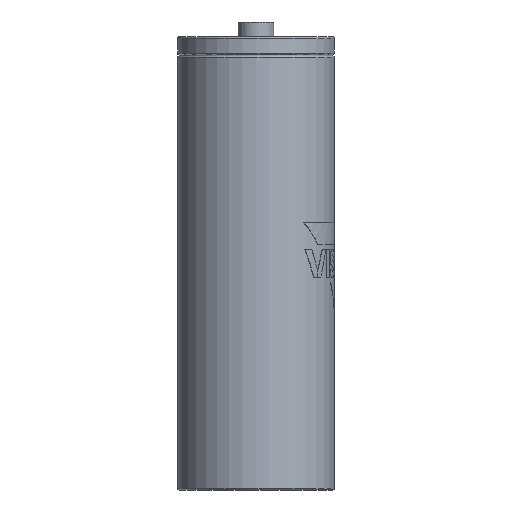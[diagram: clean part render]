
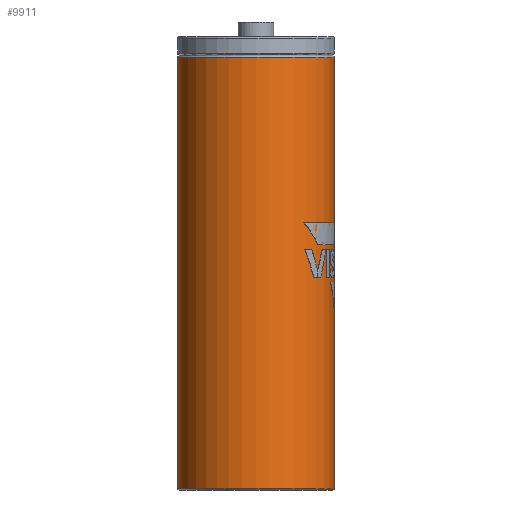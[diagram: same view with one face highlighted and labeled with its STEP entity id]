
A CAD part, left-side view. The second image highlights one B-rep face of the part: STEP entity #9911.
In plain terms, the highlighted cylindrical face has radius 38.2 mm (diameter 76.4 mm), a full revolution.
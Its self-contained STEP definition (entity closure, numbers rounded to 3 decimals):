
#9844 = TOROIDAL_SURFACE('',#9845,37.5,0.7);
#9845 = AXIS2_PLACEMENT_3D('',#9846,#9847,#9848);
#9846 = CARTESIAN_POINT('',(0.,0.,-219.8));
#9847 = DIRECTION('',(0.,0.,1.));
#9848 = DIRECTION('',(1.,0.,0.));
#9861 = VERTEX_POINT('',#9862);
#9862 = CARTESIAN_POINT('',(38.2,0.,-219.8));
#9884 = EDGE_CURVE('',#9861,#9861,#9885,.T.);
#9885 = SURFACE_CURVE('',#9886,(#9891,#9898),.PCURVE_S1.);
#9886 = CIRCLE('',#9887,38.2);
#9887 = AXIS2_PLACEMENT_3D('',#9888,#9889,#9890);
#9888 = CARTESIAN_POINT('',(0.,0.,-219.8));
#9889 = DIRECTION('',(-0.,0.,1.));
#9890 = DIRECTION('',(1.,0.,0.));
#9891 = PCURVE('',#9844,#9892);
#9892 = DEFINITIONAL_REPRESENTATION('',(#9893),#9897);
#9893 = LINE('',#9894,#9895);
#9894 = CARTESIAN_POINT('',(0.,6.283));
#9895 = VECTOR('',#9896,1.);
#9896 = DIRECTION('',(1.,0.));
#9897 = ( GEOMETRIC_REPRESENTATION_CONTEXT(2) 
PARAMETRIC_REPRESENTATION_CONTEXT() REPRESENTATION_CONTEXT('2D SPACE',''
  ) );
#9898 = PCURVE('',#9899,#9904);
#9899 = CYLINDRICAL_SURFACE('',#9900,38.2);
#9900 = AXIS2_PLACEMENT_3D('',#9901,#9902,#9903);
#9901 = CARTESIAN_POINT('',(0.,0.,-219.8));
#9902 = DIRECTION('',(0.,0.,1.));
#9903 = DIRECTION('',(1.,0.,0.));
#9904 = DEFINITIONAL_REPRESENTATION('',(#9905),#9909);
#9905 = LINE('',#9906,#9907);
#9906 = CARTESIAN_POINT('',(0.,0.));
#9907 = VECTOR('',#9908,1.);
#9908 = DIRECTION('',(1.,0.));
#9909 = ( GEOMETRIC_REPRESENTATION_CONTEXT(2) 
PARAMETRIC_REPRESENTATION_CONTEXT() REPRESENTATION_CONTEXT('2D SPACE',''
  ) );
#9911 = ADVANCED_FACE('',(#9912),#9899,.T.);
#9912 = FACE_BOUND('',#9913,.T.);
#9913 = EDGE_LOOP('',(#9914,#9915,#9938,#9965));
#9914 = ORIENTED_EDGE('',*,*,#9884,.T.);
#9915 = ORIENTED_EDGE('',*,*,#9916,.T.);
#9916 = EDGE_CURVE('',#9861,#9917,#9919,.T.);
#9917 = VERTEX_POINT('',#9918);
#9918 = CARTESIAN_POINT('',(38.2,0.,-9.4));
#9919 = SEAM_CURVE('',#9920,(#9924,#9931),.PCURVE_S1.);
#9920 = LINE('',#9921,#9922);
#9921 = CARTESIAN_POINT('',(38.2,0.,-219.8));
#9922 = VECTOR('',#9923,1.);
#9923 = DIRECTION('',(0.,0.,1.));
#9924 = PCURVE('',#9899,#9925);
#9925 = DEFINITIONAL_REPRESENTATION('',(#9926),#9930);
#9926 = LINE('',#9927,#9928);
#9927 = CARTESIAN_POINT('',(0.,0.));
#9928 = VECTOR('',#9929,1.);
#9929 = DIRECTION('',(0.,1.));
#9930 = ( GEOMETRIC_REPRESENTATION_CONTEXT(2) 
PARAMETRIC_REPRESENTATION_CONTEXT() REPRESENTATION_CONTEXT('2D SPACE',''
  ) );
#9931 = PCURVE('',#9899,#9932);
#9932 = DEFINITIONAL_REPRESENTATION('',(#9933),#9937);
#9933 = LINE('',#9934,#9935);
#9934 = CARTESIAN_POINT('',(6.283,0.));
#9935 = VECTOR('',#9936,1.);
#9936 = DIRECTION('',(0.,1.));
#9937 = ( GEOMETRIC_REPRESENTATION_CONTEXT(2) 
PARAMETRIC_REPRESENTATION_CONTEXT() REPRESENTATION_CONTEXT('2D SPACE',''
  ) );
#9938 = ORIENTED_EDGE('',*,*,#9939,.F.);
#9939 = EDGE_CURVE('',#9917,#9917,#9940,.T.);
#9940 = SURFACE_CURVE('',#9941,(#9946,#9953),.PCURVE_S1.);
#9941 = CIRCLE('',#9942,38.2);
#9942 = AXIS2_PLACEMENT_3D('',#9943,#9944,#9945);
#9943 = CARTESIAN_POINT('',(0.,0.,-9.4));
#9944 = DIRECTION('',(-0.,0.,1.));
#9945 = DIRECTION('',(1.,0.,0.));
#9946 = PCURVE('',#9899,#9947);
#9947 = DEFINITIONAL_REPRESENTATION('',(#9948),#9952);
#9948 = LINE('',#9949,#9950);
#9949 = CARTESIAN_POINT('',(0.,210.4));
#9950 = VECTOR('',#9951,1.);
#9951 = DIRECTION('',(1.,0.));
#9952 = ( GEOMETRIC_REPRESENTATION_CONTEXT(2) 
PARAMETRIC_REPRESENTATION_CONTEXT() REPRESENTATION_CONTEXT('2D SPACE',''
  ) );
#9953 = PCURVE('',#9954,#9959);
#9954 = TOROIDAL_SURFACE('',#9955,37.5,0.7);
#9955 = AXIS2_PLACEMENT_3D('',#9956,#9957,#9958);
#9956 = CARTESIAN_POINT('',(0.,0.,-9.4));
#9957 = DIRECTION('',(0.,0.,1.));
#9958 = DIRECTION('',(1.,0.,0.));
#9959 = DEFINITIONAL_REPRESENTATION('',(#9960),#9964);
#9960 = LINE('',#9961,#9962);
#9961 = CARTESIAN_POINT('',(0.,0.));
#9962 = VECTOR('',#9963,1.);
#9963 = DIRECTION('',(1.,0.));
#9964 = ( GEOMETRIC_REPRESENTATION_CONTEXT(2) 
PARAMETRIC_REPRESENTATION_CONTEXT() REPRESENTATION_CONTEXT('2D SPACE',''
  ) );
#9965 = ORIENTED_EDGE('',*,*,#9916,.F.);
